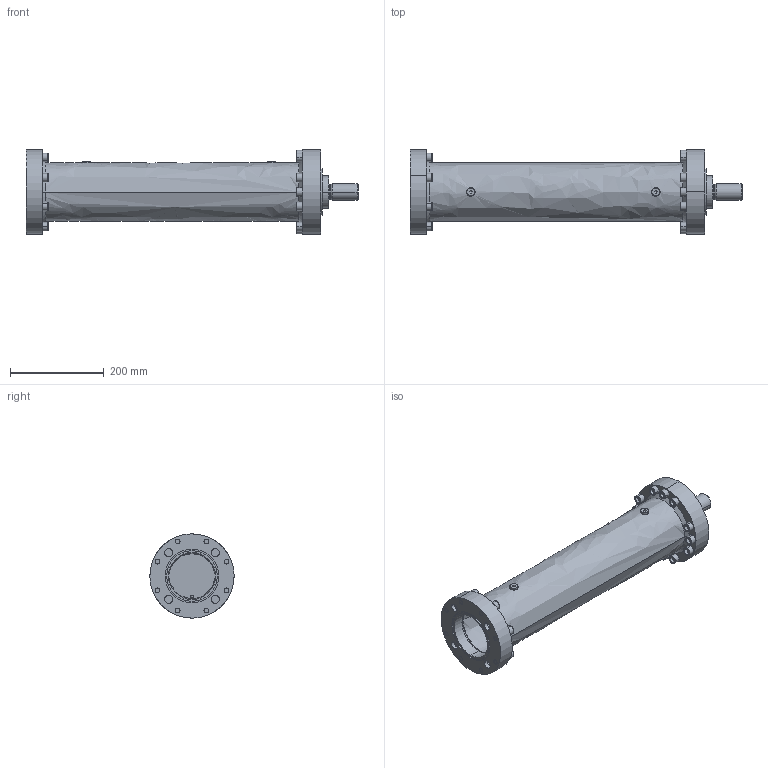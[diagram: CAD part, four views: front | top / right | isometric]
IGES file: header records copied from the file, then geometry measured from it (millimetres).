
Start section: Elysium IGES Interface
Global section: file name: \\sipapp01\Daten\Public\_BRN\Maßbilder - 3D - Explosionsdarstellungen\3D-Volumenmodelle SIPOS 7\Lineareinheiten 2SL78\KR_LC.3...33.igs; native system: Creo Elements/Direct Modeling 20.0C  26-Jan-2018; preprocessor: Creo Element/Direct IGES_3D V2.2; author: Unknown; organization: Unknown; date: 20200513.115210; units: millimetre
Bounding box: 709 x 180 x 180 mm (x, y, z)
Volume: 4310433.1 mm3; surface area: 630037.2 mm2
Topology: 1 solids, 26 shells, 920 faces, 2196 edges, 1414 vertices
Faces by surface type: bspline 920
